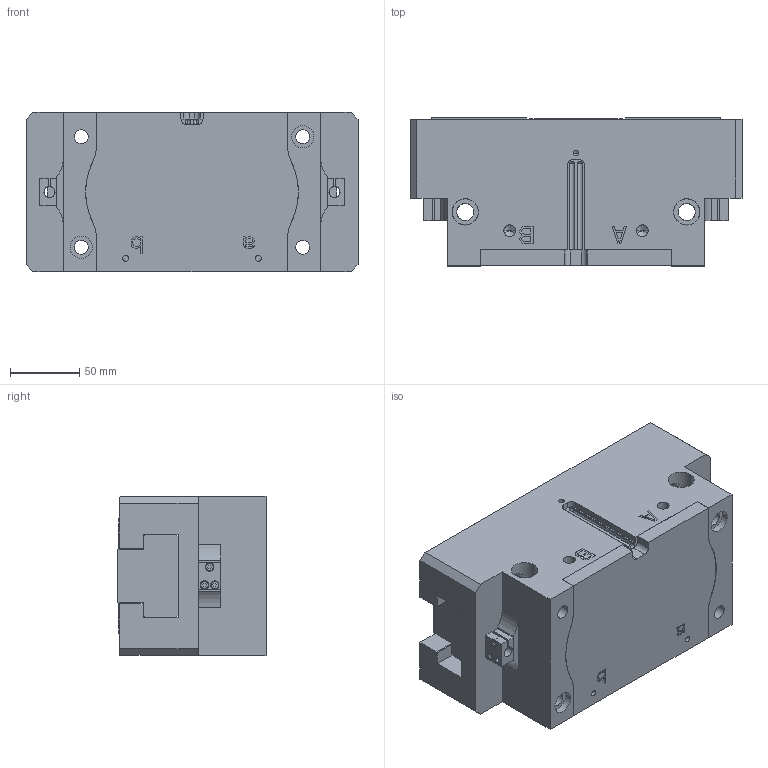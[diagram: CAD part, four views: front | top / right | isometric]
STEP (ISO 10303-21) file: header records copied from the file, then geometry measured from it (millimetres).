
FILE_DESCRIPTION (( 'STEP AP214' ), '1' );
FILE_NAME ('FPT-240A-1.STEP', '2020-07-06T23:34:31', ( '' ), ( '' ), 'SwSTEP 2.0', 'SolidWorks 2016', '' );
FILE_SCHEMA (( 'AUTOMOTIVE_DESIGN' ));
Length unit declared in the file: millimetre
Products named in the file (6): NAUO3; FPT-240A-1; NAUO2; NAUO4; NAUO1; NAUO8
Assembly tree (7 placements, depth 2):
  FPT-240A-1
    NAUO1
    NAUO2
    NAUO3
    NAUO4  x2
    NAUO8  x2
Bounding box: 240 x 107 x 115 mm (x, y, z)
Volume: 2393530.1 mm3; surface area: 289301.9 mm2
Topology: 7 solids, 7 shells, 589 faces, 1551 edges, 1004 vertices
Faces by surface type: plane 361, cylinder 172, cone 52, sphere 4
Entity records: 16449 total; most frequent: CARTESIAN_POINT 3527, DIRECTION 2633, ORIENTED_EDGE 2606, EDGE_CURVE 1303, VECTOR 957, LINE 957, VERTEX_POINT 866, AXIS2_PLACEMENT_3D 838
